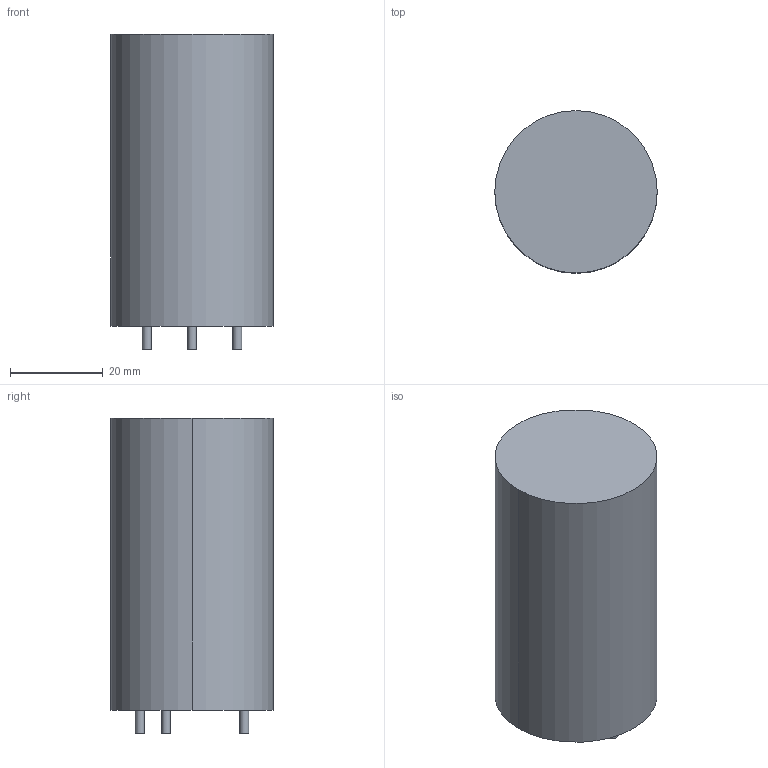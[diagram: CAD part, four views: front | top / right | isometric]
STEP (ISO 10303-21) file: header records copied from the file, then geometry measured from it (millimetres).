
FILE_DESCRIPTION(('FreeCAD Model'),'2;1');
FILE_NAME('/var/www/3D/0T/1747553.1.1.stp','2020-04-10T16:20:12',( 'Author'),(''),'Open CASCADE STEP processor 6.9','FreeCAD','Unknown' );
FILE_SCHEMA(('AUTOMOTIVE_DESIGN { 1 0 10303 214 1 1 1 1 }'));
Length unit declared in the file: millimetre
Products named in the file (3): ASSEMBLY; Body; Leads
Assembly tree (5 placements, depth 2):
  ASSEMBLY
    Body
    Leads  x4
Bounding box: 35 x 35 x 68.1 mm (x, y, z)
Volume: 60844.5 mm3; surface area: 9429.2 mm2
Topology: 17 solids, 18 shells, 53 faces, 54 edges, 36 vertices
Faces by surface type: plane 35, cylinder 18
Full cylindrical faces by diameter (mm): 1.9 x16
Entity records: 709 total; most frequent: DIRECTION 118, CARTESIAN_POINT 95, ORIENTED_EDGE 42, PCURVE 40, DEFINITIONAL_REPRESENTATION 40, LINE 36, VECTOR 36, AXIS2_PLACEMENT_3D 35
